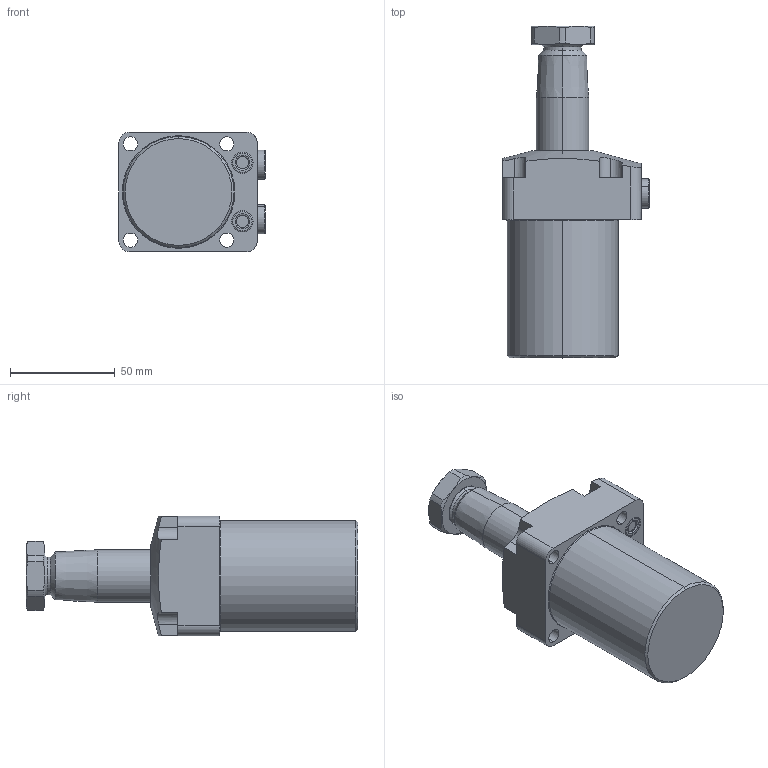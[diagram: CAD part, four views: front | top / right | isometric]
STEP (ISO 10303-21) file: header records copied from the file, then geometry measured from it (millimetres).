
FILE_DESCRIPTION(/* description */ (''),/* implementation_level */ '2;1');
FILE_NAME(/* name */ 'TRC06-R.stp',/* time_stamp */ '2025-01-04T08:40:40+08:00',/* author */ (''),/* organization */ (''),/* preprocessor_version */ 'ST-DEVELOPER v16.7',/* originating_system */ 'SIEMENS PLM Software NX 12.0',/* authorisation */ '');
FILE_SCHEMA (('AUTOMOTIVE_DESIGN { 1 0 10303 214 3 1 1 1 }'));
Length unit declared in the file: millimetre
Products named in the file (5): TRC06-R-01; TRC06-R-02; TRC06-R-03; TRC06-R-04; TRC06-R_stp
Assembly tree (5 placements, depth 2):
  TRC06-R_stp
    TRC06-R-04  x2
    TRC06-R-03
    TRC06-R-02
    TRC06-R-01
Bounding box: 69.8 x 158.5 x 57 mm (x, y, z)
Volume: 270423.5 mm3; surface area: 39176.3 mm2
Topology: 5 solids, 7 shells, 203 faces, 465 edges, 288 vertices
Faces by surface type: cylinder 73, plane 67, cone 40, torus 22, sphere 1
Entity records: 5410 total; most frequent: CARTESIAN_POINT 1086, DIRECTION 938, ORIENTED_EDGE 836, EDGE_CURVE 418, AXIS2_PLACEMENT_3D 386, VERTEX_POINT 260, EDGE_LOOP 206, CIRCLE 199
